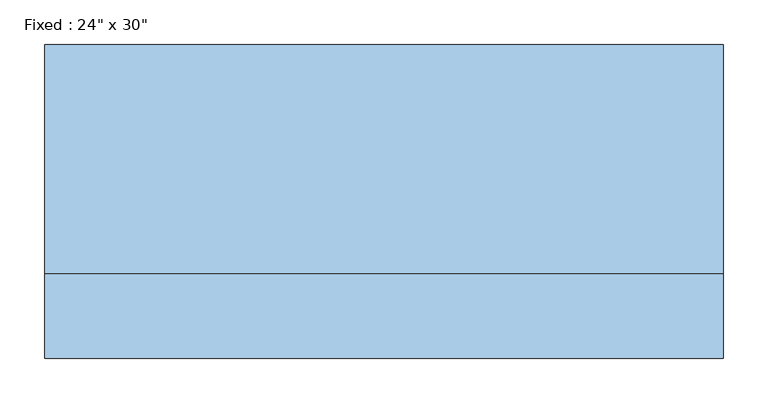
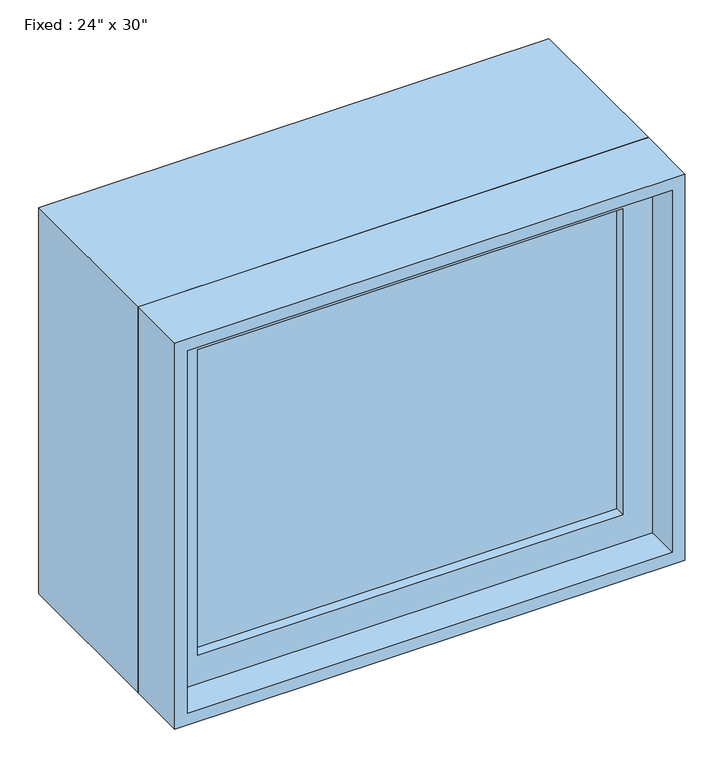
"""IFC4 building model written with IfcOpenShell, lengths in millimetres: window geometry."""

from ifc_helpers import new_model, si_unit, frame, origin, place, context, project, spatial, polyline, outline, extrude, source, transform, mapped, element, save


def window_2f0d178e(model_context):
    return source(origin(), model_context, "Body", "SweptSolid", [
        extrude(outline(polyline([(279.4, -96.8375), (279.4, -109.5375), (-355.6, -109.5375), (-355.6, -96.8375), (279.4, -96.8375)])), frame((0.0, 0.0, 977.9), z_axis=(0.0, 0.0, 1.0), x_axis=(1.0, 0.0, 0.0)), (0.0, 0.0, 1.0), 482.6),
        extrude(outline(polyline([(1504.95, -400.05), (933.45, -400.05), (933.45, 323.85), (1504.95, 323.85), (1504.95, -400.05)]), holes=[polyline([(1460.5, -355.6), (1460.5, 279.4), (977.9, 279.4), (977.9, -355.6), (1460.5, -355.6)])]), frame((0.0, -125.4125, 0.0), z_axis=(0.0, 1.0, 0.0), x_axis=(0.0, 0.0, 1.0)), (0.0, 0.0, 1.0), 44.45),
        extrude(outline(polyline([(1524.0, -419.1), (914.4, -419.1), (914.4, 342.9), (1524.0, 342.9), (1524.0, -419.1)]), holes=[polyline([(1492.25, -387.35), (1492.25, 311.15), (946.15, 311.15), (946.15, -387.35), (1492.25, -387.35)])]), frame((0.0, -80.9625, 0.0), z_axis=(0.0, 1.0, 0.0), x_axis=(0.0, 0.0, 1.0)), (0.0, 0.0, 1.0), 257.175),
        extrude(outline(polyline([(1524.0, 342.9), (1524.0, -419.1), (914.4, -419.1), (914.4, 342.9), (1524.0, 342.9)]), holes=[polyline([(1504.95, 323.85), (933.45, 323.85), (933.45, -400.05), (1504.95, -400.05), (1504.95, 323.85)])]), frame((0.0, -176.2125, 0.0), z_axis=(0.0, 1.0, 0.0), x_axis=(0.0, 0.0, 1.0)), (0.0, 0.0, 1.0), 95.25),
    ])


if __name__ == "__main__":
    model = new_model("IFC4")
    model_context = context("Model", 3, world=origin())
    ifc_project = project(units=[si_unit("LENGTHUNIT", "METRE", prefix="MILLI")], contexts=[model_context])
    site = spatial("IfcSite", under=ifc_project)
    building = spatial("IfcBuilding", under=site)
    placement = place(None, origin())
    window_shape = window_2f0d178e(model_context)
    element("IfcWindow", 1, ObjectType="Fixed : 24\" x 30\"", at=placement, inside=building, context=model_context, shape_type="MappedRepresentation", body=[
        mapped(window_shape, transform((0.0, 0.0, 0.0), x_axis=(1.0, 0.0, 0.0), y_axis=(0.0, 1.0, 0.0), z_axis=(0.0, 0.0, 1.0))),
    ])
    save(model, "model.ifc")
